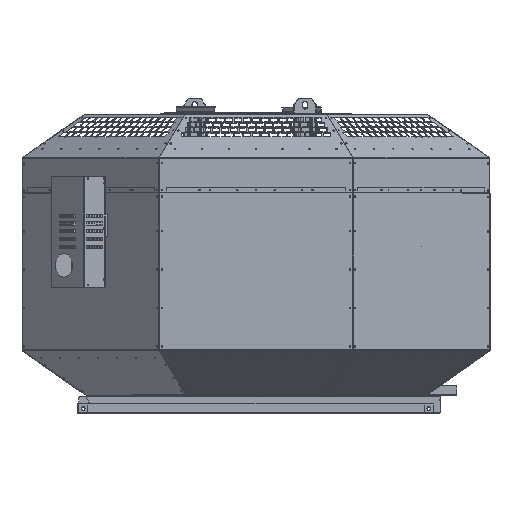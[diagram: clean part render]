
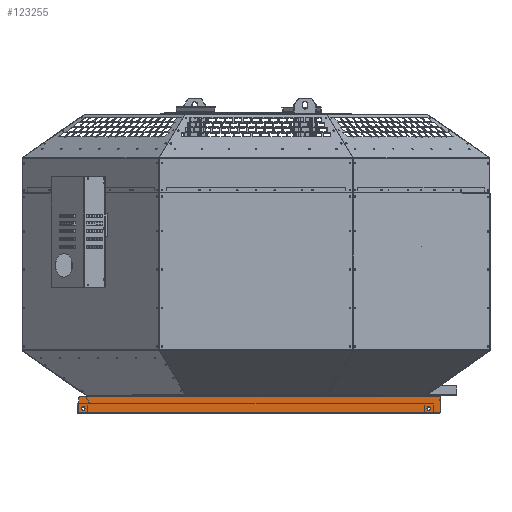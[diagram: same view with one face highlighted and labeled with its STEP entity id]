
A CAD part, top view. The second image highlights one B-rep face of the part: STEP entity #123255.
In plain terms, the highlighted planar face has unit normal (0, 0, 1).
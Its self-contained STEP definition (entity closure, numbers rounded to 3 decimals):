
#805 = VERTEX_POINT ( 'NONE', #124401 ) ;
#1120 = EDGE_LOOP ( 'NONE', ( #18384, #82823 ) ) ;
#1121 = CARTESIAN_POINT ( 'NONE',  ( 478.95, -22., 468.1 ) ) ;
#3455 = CARTESIAN_POINT ( 'NONE',  ( 461.05, 16.6, 468.1 ) ) ;
#3698 = VERTEX_POINT ( 'NONE', #50836 ) ;
#4303 = CARTESIAN_POINT ( 'NONE',  ( -449.5, -9.7, 468.1 ) ) ;
#4483 = CARTESIAN_POINT ( 'NONE',  ( -458.05, 13.6, 468.1 ) ) ;
#4627 = VECTOR ( 'NONE', #133072, 1000. ) ;
#5707 = FACE_BOUND ( 'NONE', #115833, .T. ) ;
#6535 = DIRECTION ( 'NONE',  ( 0., 0., 1. ) ) ;
#6946 = EDGE_CURVE ( 'NONE', #139037, #133497, #119925, .T. ) ;
#7224 = DIRECTION ( 'NONE',  ( 0., -1., 0. ) ) ;
#8041 = EDGE_CURVE ( 'NONE', #133497, #139037, #114195, .T. ) ;
#10577 = EDGE_CURVE ( 'NONE', #16566, #55417, #16710, .T. ) ;
#10977 = VECTOR ( 'NONE', #58034, 1000. ) ;
#11328 = ORIENTED_EDGE ( 'NONE', *, *, #145854, .T. ) ;
#13119 = VERTEX_POINT ( 'NONE', #111750 ) ;
#16126 = EDGE_CURVE ( 'NONE', #16566, #52827, #90044, .T. ) ;
#16410 = DIRECTION ( 'NONE',  ( 0., 0., 1. ) ) ;
#16566 = VERTEX_POINT ( 'NONE', #86331 ) ;
#16710 = CIRCLE ( 'NONE', #36097, 3. ) ;
#18319 = DIRECTION ( 'NONE',  ( 1., 0., 0. ) ) ;
#18384 = ORIENTED_EDGE ( 'NONE', *, *, #35820, .F. ) ;
#19895 = EDGE_LOOP ( 'NONE', ( #86937, #65264, #23535, #87046, #68342, #11328, #90620, #68721, #65154 ) ) ;
#20863 = CARTESIAN_POINT ( 'NONE',  ( 449.5, -14.2, 468.1 ) ) ;
#20966 = ORIENTED_EDGE ( 'NONE', *, *, #6946, .F. ) ;
#23535 = ORIENTED_EDGE ( 'NONE', *, *, #142805, .F. ) ;
#23590 = AXIS2_PLACEMENT_3D ( 'NONE', #48993, #132317, #60963 ) ;
#26970 = LINE ( 'NONE', #116201, #122009 ) ;
#27060 = EDGE_CURVE ( 'NONE', #3698, #52827, #26970, .T. ) ;
#27537 = CARTESIAN_POINT ( 'NONE',  ( 449.5, -18.7, 468.1 ) ) ;
#30638 = CIRCLE ( 'NONE', #23590, 3. ) ;
#32849 = DIRECTION ( 'NONE',  ( 0., -1., 0. ) ) ;
#35820 = EDGE_CURVE ( 'NONE', #147146, #121477, #39029, .T. ) ;
#36097 = AXIS2_PLACEMENT_3D ( 'NONE', #4483, #74490, #89715 ) ;
#37904 = CARTESIAN_POINT ( 'NONE',  ( 449.5, -9.7, 468.1 ) ) ;
#39029 = CIRCLE ( 'NONE', #123382, 4.5 ) ;
#39952 = LINE ( 'NONE', #121134, #4627 ) ;
#46944 = CARTESIAN_POINT ( 'NONE',  ( -461.05, -25., 468.1 ) ) ;
#48993 = CARTESIAN_POINT ( 'NONE',  ( 475.95, -22., 468.1 ) ) ;
#50836 = CARTESIAN_POINT ( 'NONE',  ( 475.55, 16.6, 468.1 ) ) ;
#52827 = VERTEX_POINT ( 'NONE', #88314 ) ;
#55417 = VERTEX_POINT ( 'NONE', #81325 ) ;
#56177 = AXIS2_PLACEMENT_3D ( 'NONE', #89247, #6535, #89750 ) ;
#58034 = DIRECTION ( 'NONE',  ( 0., 1., 0. ) ) ;
#58881 = DIRECTION ( 'NONE',  ( -1., 0., 0. ) ) ;
#60963 = DIRECTION ( 'NONE',  ( 0., -1., 0. ) ) ;
#61491 = FACE_BOUND ( 'NONE', #1120, .T. ) ;
#61820 = EDGE_CURVE ( 'NONE', #121477, #147146, #63090, .T. ) ;
#63090 = CIRCLE ( 'NONE', #99925, 4.5 ) ;
#63367 = CARTESIAN_POINT ( 'NONE',  ( -458.05, -25., 468.1 ) ) ;
#63738 = VECTOR ( 'NONE', #18319, 1000. ) ;
#64213 = CARTESIAN_POINT ( 'NONE',  ( -449.5, -14.2, 468.1 ) ) ;
#65154 = ORIENTED_EDGE ( 'NONE', *, *, #27060, .T. ) ;
#65264 = ORIENTED_EDGE ( 'NONE', *, *, #10577, .T. ) ;
#67322 = DIRECTION ( 'NONE',  ( 0., 0., 1. ) ) ;
#68175 = LINE ( 'NONE', #46944, #127808 ) ;
#68342 = ORIENTED_EDGE ( 'NONE', *, *, #148795, .F. ) ;
#68721 = ORIENTED_EDGE ( 'NONE', *, *, #110495, .F. ) ;
#68935 = AXIS2_PLACEMENT_3D ( 'NONE', #149764, #78484, #7224 ) ;
#70786 = ORIENTED_EDGE ( 'NONE', *, *, #8041, .F. ) ;
#72953 = CARTESIAN_POINT ( 'NONE',  ( -449.5, -18.7, 468.1 ) ) ;
#74249 = CIRCLE ( 'NONE', #68935, 3. ) ;
#74490 = DIRECTION ( 'NONE',  ( 0., 0., 1. ) ) ;
#77806 = PLANE ( 'NONE',  #56177 ) ;
#78484 = DIRECTION ( 'NONE',  ( 0., 0., 1. ) ) ;
#79268 = CARTESIAN_POINT ( 'NONE',  ( -449.5, -14.2, 468.1 ) ) ;
#80658 = EDGE_CURVE ( 'NONE', #805, #101497, #74249, .T. ) ;
#81325 = CARTESIAN_POINT ( 'NONE',  ( -461.05, 13.6, 468.1 ) ) ;
#82251 = LINE ( 'NONE', #3455, #145567 ) ;
#82823 = ORIENTED_EDGE ( 'NONE', *, *, #61820, .F. ) ;
#86331 = CARTESIAN_POINT ( 'NONE',  ( -458.05, 16.6, 468.1 ) ) ;
#86937 = ORIENTED_EDGE ( 'NONE', *, *, #16126, .F. ) ;
#87046 = ORIENTED_EDGE ( 'NONE', *, *, #80658, .T. ) ;
#87694 = CARTESIAN_POINT ( 'NONE',  ( 449.5, -14.2, 468.1 ) ) ;
#88314 = CARTESIAN_POINT ( 'NONE',  ( -439.55, 16.6, 468.1 ) ) ;
#89247 = CARTESIAN_POINT ( 'NONE',  ( -461.05, 18.5, 468.1 ) ) ;
#89590 = CARTESIAN_POINT ( 'NONE',  ( -461.05, 16.6, 468.1 ) ) ;
#89715 = DIRECTION ( 'NONE',  ( 0., -1., 0. ) ) ;
#89750 = DIRECTION ( 'NONE',  ( 0., -1., 0. ) ) ;
#90044 = LINE ( 'NONE', #89590, #63738 ) ;
#90620 = ORIENTED_EDGE ( 'NONE', *, *, #129506, .F. ) ;
#93183 = FACE_OUTER_BOUND ( 'NONE', #19895, .T. ) ;
#99487 = DIRECTION ( 'NONE',  ( 0., 0., 1. ) ) ;
#99717 = DIRECTION ( 'NONE',  ( 0., -1., 0. ) ) ;
#99925 = AXIS2_PLACEMENT_3D ( 'NONE', #20863, #104239, #32849 ) ;
#101497 = VERTEX_POINT ( 'NONE', #63367 ) ;
#102270 = LINE ( 'NONE', #152783, #10977 ) ;
#104239 = DIRECTION ( 'NONE',  ( 0., 0., 1. ) ) ;
#104996 = AXIS2_PLACEMENT_3D ( 'NONE', #79268, #67322, #114750 ) ;
#110495 = EDGE_CURVE ( 'NONE', #3698, #13119, #82251, .T. ) ;
#111750 = CARTESIAN_POINT ( 'NONE',  ( 478.95, 16.6, 468.1 ) ) ;
#114195 = CIRCLE ( 'NONE', #146867, 4.5 ) ;
#114750 = DIRECTION ( 'NONE',  ( 0., -1., 0. ) ) ;
#115354 = CARTESIAN_POINT ( 'NONE',  ( 475.95, -25., 468.1 ) ) ;
#115833 = EDGE_LOOP ( 'NONE', ( #70786, #20966 ) ) ;
#116201 = CARTESIAN_POINT ( 'NONE',  ( -461.05, 16.6, 468.1 ) ) ;
#119925 = CIRCLE ( 'NONE', #104996, 4.5 ) ;
#121134 = CARTESIAN_POINT ( 'NONE',  ( 478.95, 16.6, 468.1 ) ) ;
#121477 = VERTEX_POINT ( 'NONE', #37904 ) ;
#122009 = VECTOR ( 'NONE', #128129, 1000. ) ;
#123255 = ADVANCED_FACE ( 'NONE', ( #61491, #5707, #93183 ), #77806, .T. ) ;
#123382 = AXIS2_PLACEMENT_3D ( 'NONE', #87694, #16410, #99717 ) ;
#124401 = CARTESIAN_POINT ( 'NONE',  ( -461.05, -22., 468.1 ) ) ;
#127808 = VECTOR ( 'NONE', #58881, 1000. ) ;
#128129 = DIRECTION ( 'NONE',  ( -1., 0., 0. ) ) ;
#129506 = EDGE_CURVE ( 'NONE', #13119, #149424, #39952, .T. ) ;
#132317 = DIRECTION ( 'NONE',  ( 0., 0., 1. ) ) ;
#133072 = DIRECTION ( 'NONE',  ( 0., -1., 0. ) ) ;
#133497 = VERTEX_POINT ( 'NONE', #72953 ) ;
#134076 = DIRECTION ( 'NONE',  ( 1., 0., 0. ) ) ;
#139037 = VERTEX_POINT ( 'NONE', #4303 ) ;
#142805 = EDGE_CURVE ( 'NONE', #805, #55417, #102270, .T. ) ;
#145567 = VECTOR ( 'NONE', #134076, 1000. ) ;
#145854 = EDGE_CURVE ( 'NONE', #151515, #149424, #30638, .T. ) ;
#146867 = AXIS2_PLACEMENT_3D ( 'NONE', #64213, #99487, #149037 ) ;
#147146 = VERTEX_POINT ( 'NONE', #27537 ) ;
#148795 = EDGE_CURVE ( 'NONE', #151515, #101497, #68175, .T. ) ;
#149037 = DIRECTION ( 'NONE',  ( 0., -1., 0. ) ) ;
#149424 = VERTEX_POINT ( 'NONE', #1121 ) ;
#149764 = CARTESIAN_POINT ( 'NONE',  ( -458.05, -22., 468.1 ) ) ;
#151515 = VERTEX_POINT ( 'NONE', #115354 ) ;
#152783 = CARTESIAN_POINT ( 'NONE',  ( -461.05, 18.5, 468.1 ) ) ;
